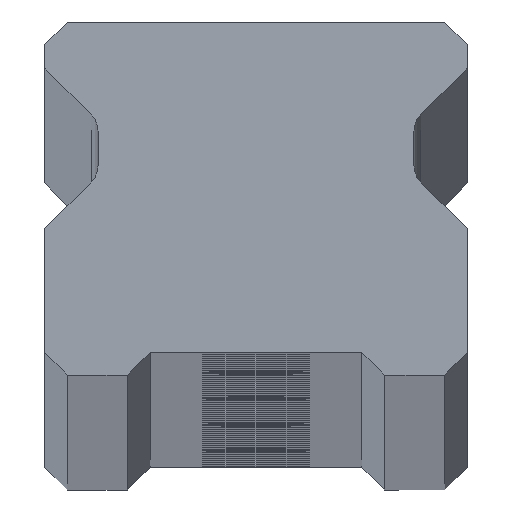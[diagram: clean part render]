
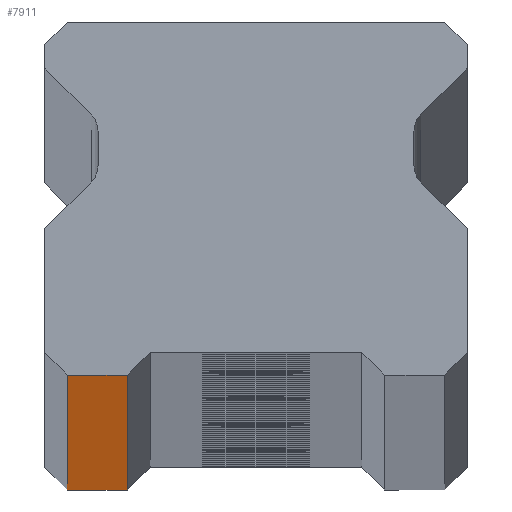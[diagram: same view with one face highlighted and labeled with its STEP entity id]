
A CAD part, top view. The second image highlights one B-rep face of the part: STEP entity #7911.
In plain terms, the highlighted planar face has unit normal (0, -1, 0).
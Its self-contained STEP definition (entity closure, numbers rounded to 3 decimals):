
#24 = EDGE_LOOP ( 'NONE', ( #6704, #1789, #9178, #6956 ) ) ;
#180 = VECTOR ( 'NONE', #2268, 1000. ) ;
#536 = EDGE_CURVE ( 'NONE', #2794, #3004, #3506, .T. ) ;
#560 = LINE ( 'NONE', #11821, #2428 ) ;
#771 = VERTEX_POINT ( 'NONE', #5795 ) ;
#928 = DIRECTION ( 'NONE',  ( -1., 0., 0. ) ) ;
#1789 = ORIENTED_EDGE ( 'NONE', *, *, #11128, .T. ) ;
#2268 = DIRECTION ( 'NONE',  ( 1., 0., 0. ) ) ;
#2428 = VECTOR ( 'NONE', #3476, 1000. ) ;
#2794 = VERTEX_POINT ( 'NONE', #6359 ) ;
#2954 = VECTOR ( 'NONE', #10932, 1000. ) ;
#3004 = VERTEX_POINT ( 'NONE', #4665 ) ;
#3307 = AXIS2_PLACEMENT_3D ( 'NONE', #7325, #11051, #928 ) ;
#3476 = DIRECTION ( 'NONE',  ( 0., 0., 1. ) ) ;
#3506 = LINE ( 'NONE', #9985, #2954 ) ;
#4141 = CARTESIAN_POINT ( 'NONE',  ( 11.5, 0., -1790. ) ) ;
#4614 = DIRECTION ( 'NONE',  ( 0., 0., -1. ) ) ;
#4665 = CARTESIAN_POINT ( 'NONE',  ( -7., 0., 1790. ) ) ;
#5472 = CARTESIAN_POINT ( 'NONE',  ( -10.25, 0., 1790. ) ) ;
#5795 = CARTESIAN_POINT ( 'NONE',  ( -7., 0., -1790. ) ) ;
#5927 = VECTOR ( 'NONE', #4614, 1000. ) ;
#6171 = CARTESIAN_POINT ( 'NONE',  ( -10.25, 0., -1790. ) ) ;
#6359 = CARTESIAN_POINT ( 'NONE',  ( -10.25, 0., 1790. ) ) ;
#6436 = PLANE ( 'NONE',  #3307 ) ;
#6704 = ORIENTED_EDGE ( 'NONE', *, *, #8691, .T. ) ;
#6956 = ORIENTED_EDGE ( 'NONE', *, *, #7906, .T. ) ;
#7325 = CARTESIAN_POINT ( 'NONE',  ( 11.5, 0., 1790. ) ) ;
#7906 = EDGE_CURVE ( 'NONE', #2794, #11370, #8376, .T. ) ;
#7911 = ADVANCED_FACE ( 'NONE', ( #11795 ), #6436, .F. ) ;
#8376 = LINE ( 'NONE', #5472, #5927 ) ;
#8691 = EDGE_CURVE ( 'NONE', #11370, #771, #9691, .T. ) ;
#9178 = ORIENTED_EDGE ( 'NONE', *, *, #536, .F. ) ;
#9691 = LINE ( 'NONE', #4141, #180 ) ;
#9985 = CARTESIAN_POINT ( 'NONE',  ( 11.5, 0., 1790. ) ) ;
#10932 = DIRECTION ( 'NONE',  ( 1., 0., 0. ) ) ;
#11051 = DIRECTION ( 'NONE',  ( 0., 1., 0. ) ) ;
#11128 = EDGE_CURVE ( 'NONE', #771, #3004, #560, .T. ) ;
#11370 = VERTEX_POINT ( 'NONE', #6171 ) ;
#11795 = FACE_OUTER_BOUND ( 'NONE', #24, .T. ) ;
#11821 = CARTESIAN_POINT ( 'NONE',  ( -7., 0., -1790. ) ) ;
